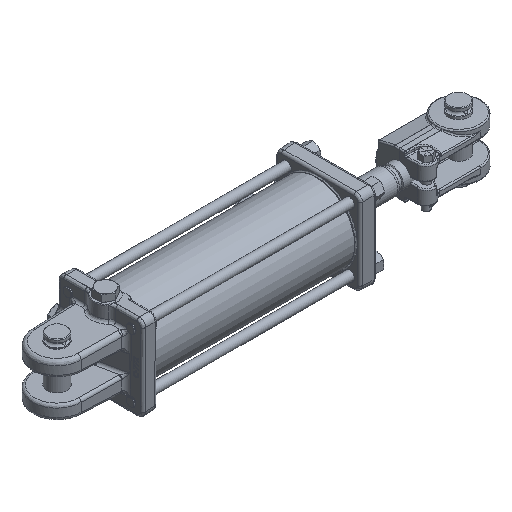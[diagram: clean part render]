
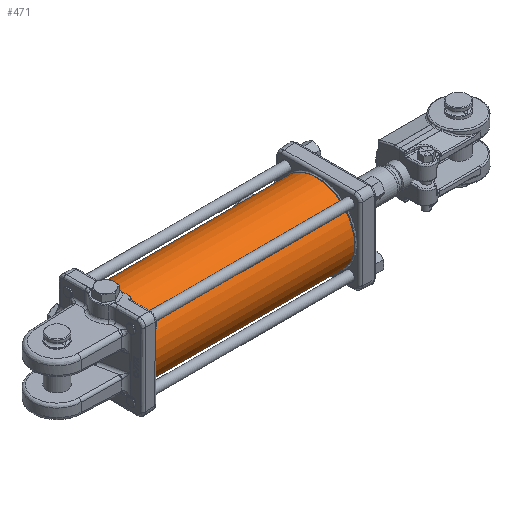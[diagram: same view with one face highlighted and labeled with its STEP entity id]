
A CAD part, isometric view. The second image highlights one B-rep face of the part: STEP entity #471.
In plain terms, the highlighted cylindrical face has radius 49.212 mm (diameter 98.425 mm), a full revolution.
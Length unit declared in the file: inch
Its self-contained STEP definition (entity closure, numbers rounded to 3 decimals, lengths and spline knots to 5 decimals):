
#210=CARTESIAN_POINT('',(-0.842,1.93673,0.0545));
#211=VERTEX_POINT('',#210);
#212=CARTESIAN_POINT('',(-0.842,1.93673,0.0545));
#213=CARTESIAN_POINT('',(-0.84884,1.93673,0.0545));
#214=CARTESIAN_POINT('',(-0.85614,1.93677,0.05313));
#215=CARTESIAN_POINT('',(-0.86957,1.93692,0.04757));
#216=CARTESIAN_POINT('',(-0.8757,1.93702,0.04338));
#217=CARTESIAN_POINT('',(-0.88538,1.93721,0.0337));
#218=CARTESIAN_POINT('',(-0.88957,1.93732,0.02757));
#219=CARTESIAN_POINT('',(-0.89513,1.93746,0.01414));
#220=CARTESIAN_POINT('',(-0.8965,1.9375,0.00684));
#221=CARTESIAN_POINT('',(-0.8965,1.9375,-0.00684));
#222=CARTESIAN_POINT('',(-0.89513,1.93746,-0.01414));
#223=CARTESIAN_POINT('',(-0.88957,1.93732,-0.02757));
#224=CARTESIAN_POINT('',(-0.88538,1.93721,-0.0337));
#225=CARTESIAN_POINT('',(-0.8757,1.93702,-0.04338));
#226=CARTESIAN_POINT('',(-0.86957,1.93692,-0.04757));
#227=CARTESIAN_POINT('',(-0.85614,1.93677,-0.05313));
#228=CARTESIAN_POINT('',(-0.84884,1.93673,-0.0545));
#229=CARTESIAN_POINT('',(-0.83516,1.93673,-0.0545));
#230=CARTESIAN_POINT('',(-0.82786,1.93677,-0.05313));
#231=CARTESIAN_POINT('',(-0.81443,1.93692,-0.04757));
#232=CARTESIAN_POINT('',(-0.8083,1.93702,-0.04338));
#233=CARTESIAN_POINT('',(-0.79862,1.93721,-0.0337));
#234=CARTESIAN_POINT('',(-0.79443,1.93732,-0.02757));
#235=CARTESIAN_POINT('',(-0.78887,1.93746,-0.01414));
#236=CARTESIAN_POINT('',(-0.7875,1.9375,-0.00684));
#237=CARTESIAN_POINT('',(-0.7875,1.9375,0.00684));
#238=CARTESIAN_POINT('',(-0.78887,1.93746,0.01414));
#239=CARTESIAN_POINT('',(-0.79443,1.93732,0.02757));
#240=CARTESIAN_POINT('',(-0.79862,1.93721,0.0337));
#241=CARTESIAN_POINT('',(-0.8083,1.93702,0.04338));
#242=CARTESIAN_POINT('',(-0.81443,1.93692,0.04757));
#243=CARTESIAN_POINT('',(-0.82786,1.93677,0.05313));
#244=CARTESIAN_POINT('',(-0.83516,1.93673,0.0545));
#245=CARTESIAN_POINT('',(-0.842,1.93673,0.0545));
#246=B_SPLINE_CURVE_WITH_KNOTS('',3,(#212,#213,#214,#215,#216,#217,#218,#219,#220,#221,#222,#223,#224,#225,#226,#227,#228,#229,#230,#231,#232,#233,#234,#235,#236,#237,#238,#239,#240,#241,#242,#243,#244,#245),.UNSPECIFIED.,.T.,.U.,(4,2,2,2,2,2,2,2,2,2,2,2,2,2,2,2,4),(0.0,0.05215,0.1043,0.15644,0.20859,0.26074,0.31289,0.36503,0.41718,0.46933,0.52148,0.57362,0.62577,0.67792,0.73007,0.78222,0.83436),.UNSPECIFIED.);
#247=EDGE_CURVE('',#211,#211,#246,.T.);
#298=CARTESIAN_POINT('',(-1.222,1.93725,0.031));
#299=VERTEX_POINT('',#298);
#300=CARTESIAN_POINT('',(-1.222,1.93725,0.031));
#301=CARTESIAN_POINT('',(-1.22589,1.93725,0.031));
#302=CARTESIAN_POINT('',(-1.23004,1.93726,0.03022));
#303=CARTESIAN_POINT('',(-1.23768,1.93731,0.02706));
#304=CARTESIAN_POINT('',(-1.24117,1.93734,0.02467));
#305=CARTESIAN_POINT('',(-1.24667,1.93741,0.01917));
#306=CARTESIAN_POINT('',(-1.24906,1.93744,0.01568));
#307=CARTESIAN_POINT('',(-1.25222,1.93749,0.00804));
#308=CARTESIAN_POINT('',(-1.253,1.9375,0.00389));
#309=CARTESIAN_POINT('',(-1.253,1.9375,-0.00389));
#310=CARTESIAN_POINT('',(-1.25222,1.93749,-0.00804));
#311=CARTESIAN_POINT('',(-1.24906,1.93744,-0.01568));
#312=CARTESIAN_POINT('',(-1.24667,1.93741,-0.01917));
#313=CARTESIAN_POINT('',(-1.24117,1.93734,-0.02467));
#314=CARTESIAN_POINT('',(-1.23768,1.93731,-0.02706));
#315=CARTESIAN_POINT('',(-1.23004,1.93726,-0.03022));
#316=CARTESIAN_POINT('',(-1.22589,1.93725,-0.031));
#317=CARTESIAN_POINT('',(-1.21811,1.93725,-0.031));
#318=CARTESIAN_POINT('',(-1.21396,1.93726,-0.03022));
#319=CARTESIAN_POINT('',(-1.20632,1.93731,-0.02706));
#320=CARTESIAN_POINT('',(-1.20283,1.93734,-0.02467));
#321=CARTESIAN_POINT('',(-1.19733,1.93741,-0.01917));
#322=CARTESIAN_POINT('',(-1.19494,1.93744,-0.01568));
#323=CARTESIAN_POINT('',(-1.19178,1.93749,-0.00804));
#324=CARTESIAN_POINT('',(-1.191,1.9375,-0.00389));
#325=CARTESIAN_POINT('',(-1.191,1.9375,0.00389));
#326=CARTESIAN_POINT('',(-1.19178,1.93749,0.00804));
#327=CARTESIAN_POINT('',(-1.19494,1.93744,0.01568));
#328=CARTESIAN_POINT('',(-1.19733,1.93741,0.01917));
#329=CARTESIAN_POINT('',(-1.20283,1.93734,0.02467));
#330=CARTESIAN_POINT('',(-1.20632,1.93731,0.02706));
#331=CARTESIAN_POINT('',(-1.21396,1.93726,0.03022));
#332=CARTESIAN_POINT('',(-1.21811,1.93725,0.031));
#333=CARTESIAN_POINT('',(-1.222,1.93725,0.031));
#334=B_SPLINE_CURVE_WITH_KNOTS('',3,(#300,#301,#302,#303,#304,#305,#306,#307,#308,#309,#310,#311,#312,#313,#314,#315,#316,#317,#318,#319,#320,#321,#322,#323,#324,#325,#326,#327,#328,#329,#330,#331,#332,#333),.UNSPECIFIED.,.T.,.U.,(4,2,2,2,2,2,2,2,2,2,2,2,2,2,2,2,4),(0.0,0.02966,0.05932,0.08898,0.11864,0.1483,0.17797,0.20763,0.23729,0.26695,0.29661,0.32627,0.35593,0.38559,0.41525,0.44491,0.47457),.UNSPECIFIED.);
#335=EDGE_CURVE('',#299,#299,#334,.T.);
#345=CARTESIAN_POINT('',(0.,1.9375,0.0));
#346=VERTEX_POINT('',#345);
#347=CARTESIAN_POINT('',(0.,0.0,0.0));
#348=DIRECTION('',(1.0,0.0,0.0));
#349=DIRECTION('',(0.0,1.0,0.0));
#350=AXIS2_PLACEMENT_3D('',#347,#348,#349);
#351=CIRCLE('',#350,1.9375);
#352=EDGE_CURVE('',#346,#346,#351,.T.);
#439=CARTESIAN_POINT('',(-10.094,1.9375,0.0));
#440=VERTEX_POINT('',#439);
#441=CARTESIAN_POINT('',(-10.094,0.0,0.0));
#442=DIRECTION('',(1.0,0.0,0.0));
#443=DIRECTION('',(0.0,1.0,0.0));
#444=AXIS2_PLACEMENT_3D('',#441,#442,#443);
#445=CIRCLE('',#444,1.9375);
#446=EDGE_CURVE('',#440,#440,#445,.T.);
#454=CARTESIAN_POINT('',(-5.047,0.0,0.0));
#455=DIRECTION('',(1.0,0.0,0.0));
#456=DIRECTION('',(0.0,1.0,0.0));
#457=AXIS2_PLACEMENT_3D('',#454,#455,#456);
#458=CYLINDRICAL_SURFACE('',#457,1.9375);
#459=ORIENTED_EDGE('',*,*,#352,.F.);
#460=EDGE_LOOP('',(#459));
#461=FACE_OUTER_BOUND('',#460,.T.);
#462=ORIENTED_EDGE('',*,*,#247,.T.);
#463=EDGE_LOOP('',(#462));
#464=FACE_BOUND('',#463,.T.);
#465=ORIENTED_EDGE('',*,*,#335,.T.);
#466=EDGE_LOOP('',(#465));
#467=FACE_BOUND('',#466,.T.);
#468=ORIENTED_EDGE('',*,*,#446,.T.);
#469=EDGE_LOOP('',(#468));
#470=FACE_BOUND('',#469,.T.);
#471=ADVANCED_FACE('',(#461,#464,#467,#470),#458,.T.);
